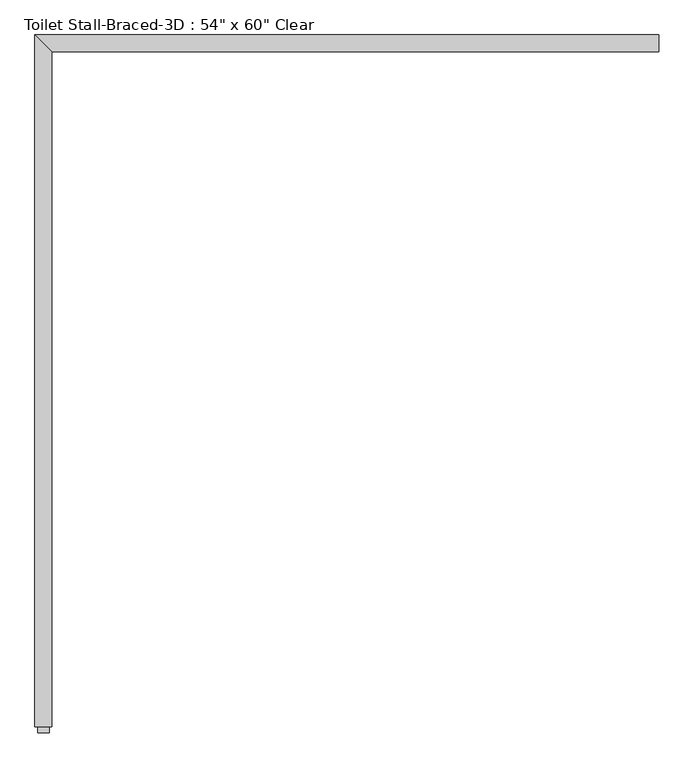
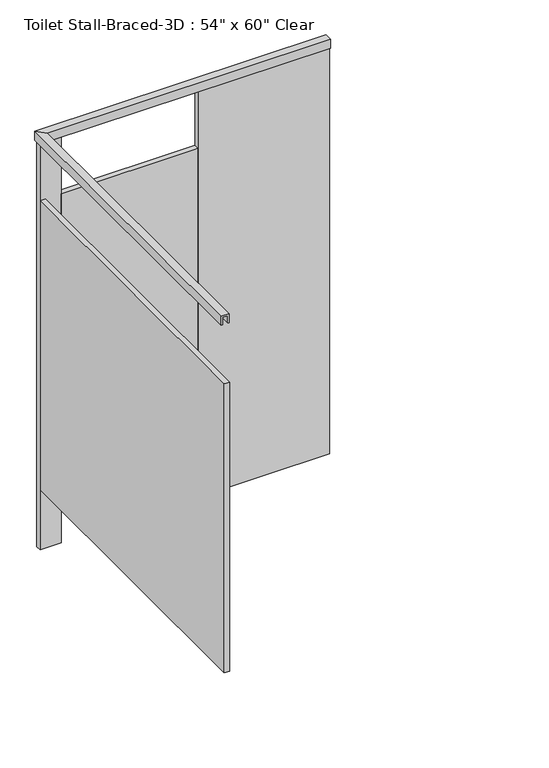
"""IFC4 building model written with IfcOpenShell, lengths in millimetres: proxy geometry."""

import ifcopenshell
import ifcopenshell.guid

model = None  # the IFC model being written
_history = None  # IfcOwnerHistory: only IFC2X3 demands one
_inside = {}  # id of a spatial element -> (the spatial element, [elements in it])
_under = {}  # id of a project, library or spatial element -> (it, [spatial elements below it])
_declared = {}  # id of a project -> (the project, [libraries it declares])
_typed = {}  # id of a type object -> (the type object, [elements of that type])
_made_of = {}  # id of a material, layer set ... -> (it, [elements and type objects made of it])


def new_model(schema):
    """Start an empty IFC model of exactly this schema.

    Asked for "IFC4X3", IfcOpenShell would pick the latest addendum, in which some entities
    have other attributes; the version numbers below select the first issue.
    IFC2X3 requires an IfcOwnerHistory on every rooted entity: one is made here for all.
    """
    global model, _history
    if schema == "IFC4X3":
        model = ifcopenshell.file(schema_version=(4, 3, 0, 0))
    else:
        model = ifcopenshell.file(schema=schema)
    _inside.clear()
    _under.clear()
    _declared.clear()
    _typed.clear()
    _made_of.clear()
    _history = None
    if model.schema == "IFC2X3":
        org = make("IfcOrganization", Name="unknown")
        user = make(
            "IfcPersonAndOrganization",
            ThePerson=make("IfcPerson", FamilyName="unknown"),
            TheOrganization=org,
        )
        app = make(
            "IfcApplication",
            ApplicationDeveloper=org,
            Version="unknown",
            ApplicationFullName="unknown",
            ApplicationIdentifier="unknown",
        )
        _history = make(
            "IfcOwnerHistory",
            OwningUser=user,
            OwningApplication=app,
            ChangeAction="ADDED",
            CreationDate=0,
        )
    return model


def make(cls, **values):
    """One entity of the class cls with the attributes given. An attribute that is None is left unset."""
    return model.create_entity(
        cls, **{name: value for name, value in values.items() if value is not None}
    )


def rooted(cls, **values):
    """An entity with a GlobalId (a new one), such as an element, a storey or a relation."""
    return make(cls, GlobalId=ifcopenshell.guid.new(), OwnerHistory=_history, **values)


def si_unit(unit_type, name, prefix=None):
    """IfcSIUnit, for example si_unit("LENGTHUNIT", "METRE", prefix="MILLI")."""
    return make("IfcSIUnit", UnitType=unit_type, Prefix=prefix, Name=name)


def assignment(units):
    """IfcUnitAssignment: the units of a project."""
    return None if units is None else make("IfcUnitAssignment", Units=units)


def point(xyz):
    """IfcCartesianPoint."""
    return None if xyz is None else make("IfcCartesianPoint", Coordinates=xyz)


def direction(xyz):
    """IfcDirection."""
    return None if xyz is None else make("IfcDirection", DirectionRatios=xyz)


def frame(location, z_axis=None, x_axis=None):
    """IfcAxis2Placement3D, a coordinate frame: its origin and axes. An axis left out is left unset."""
    return make(
        "IfcAxis2Placement3D",
        Location=point(location),
        Axis=direction(z_axis),
        RefDirection=direction(x_axis),
    )


def origin():
    """The frame at (0, 0, 0) with its axes left unset."""
    return frame((0.0, 0.0, 0.0))


def origin_with_axes():
    """The frame at (0, 0, 0) with the z axis (0, 0, 1) and the x axis (1, 0, 0) written out."""
    return frame((0.0, 0.0, 0.0), z_axis=(0.0, 0.0, 1.0), x_axis=(1.0, 0.0, 0.0))


def place(relative_to, where):
    """IfcLocalPlacement: puts the frame where relative to a parent placement (None: the world)."""
    return make(
        "IfcLocalPlacement", PlacementRelTo=relative_to, RelativePlacement=where
    )


def context(
    kind, dimensions, precision=None, world=None, true_north=None, identifier=None
):
    """IfcGeometricRepresentationContext, for example the 3D "Model" context."""
    return make(
        "IfcGeometricRepresentationContext",
        ContextIdentifier=identifier,
        ContextType=kind,
        CoordinateSpaceDimension=dimensions,
        Precision=precision,
        WorldCoordinateSystem=world,
        TrueNorth=true_north,
    )


def project(units=None, contexts=None):
    """IfcProject with its units and contexts."""
    return rooted(
        "IfcProject",
        Name="project",
        RepresentationContexts=contexts,
        UnitsInContext=assignment(units),
    )


def spatial(cls, under=None, at=None, **own):
    """A site, building, storey or space (cls), placed at a placement, below another one or the project."""
    s = rooted(cls, ObjectPlacement=at, **own)
    if under is not None:
        _under.setdefault(under.id(), (under, []))[1].append(s)
    return s


def polyline(points):
    """IfcPolyline through the points."""
    return make("IfcPolyline", Points=[point(p) for p in points])


def outline(outer, holes=None, kind="AREA"):
    """IfcArbitraryClosedProfileDef: a profile drawn as a closed curve; with holes, ...WithVoids."""
    if holes is None:
        return make("IfcArbitraryClosedProfileDef", ProfileType=kind, OuterCurve=outer)
    return make(
        "IfcArbitraryProfileDefWithVoids",
        ProfileType=kind,
        OuterCurve=outer,
        InnerCurves=holes,
    )


def extrude(swept, where, along, depth):
    """IfcExtrudedAreaSolid: the profile swept, set in the frame where, extruded along a direction by depth."""
    return make(
        "IfcExtrudedAreaSolid",
        SweptArea=swept,
        Position=where,
        ExtrudedDirection=direction(along),
        Depth=depth,
    )


def faces_of(points, faces, orient=None, outer=None):
    """IfcFace entities. A face is a list of loops; a loop is a list of indices into points, from 0.

    orient and outer hold one flag for each loop. By default every Orientation is true, the
    first loop of a face is its IfcFaceOuterBound and the others are IfcFaceBound.
    """
    made = []
    for i, loops in enumerate(faces):
        bounds = []
        for j, loop in enumerate(loops):
            is_outer = j == 0 if outer is None else outer[i][j]
            bounds.append(
                make(
                    "IfcFaceOuterBound" if is_outer else "IfcFaceBound",
                    Bound=make("IfcPolyLoop", Polygon=[points[k] for k in loop]),
                    Orientation=True if orient is None else orient[i][j],
                )
            )
        made.append(make("IfcFace", Bounds=bounds))
    return made


def faceted_brep(points, faces, orient=None, outer=None, voids=None):
    """IfcFacetedBrep: a solid bounded by flat faces; with voids (closed shells), ...WithVoids."""
    shared = [point(p) for p in points]
    hull = make("IfcClosedShell", CfsFaces=faces_of(shared, faces, orient, outer))
    if voids is None:
        return make("IfcFacetedBrep", Outer=hull)
    return make(
        "IfcFacetedBrepWithVoids",
        Outer=hull,
        Voids=[
            make(cls, CfsFaces=faces_of(shared, fs, o, b)) for cls, fs, o, b in voids
        ],
    )


def shape(context_of_items, identifier, shape_type, items):
    """IfcShapeRepresentation: the items that make up one representation, for example the "Body"."""
    return make(
        "IfcShapeRepresentation",
        ContextOfItems=context_of_items,
        RepresentationIdentifier=identifier,
        RepresentationType=shape_type,
        Items=items,
    )


def source(mapping_origin, context_of_items, identifier, shape_type, items):
    """IfcRepresentationMap: a shape defined once, which mapped items show again and again."""
    return make(
        "IfcRepresentationMap",
        MappingOrigin=mapping_origin,
        MappedRepresentation=shape(context_of_items, identifier, shape_type, items),
    )


def transform(
    local_origin,
    x_axis=None,
    y_axis=None,
    z_axis=None,
    scale=None,
    scale2=None,
    scale3=None,
    uniform=True,
):
    """IfcCartesianTransformationOperator3D, or its non-uniform kind. x_axis, y_axis, z_axis: its Axis1, 2, 3."""
    if uniform:
        return make(
            "IfcCartesianTransformationOperator3D",
            Axis1=direction(x_axis),
            Axis2=direction(y_axis),
            LocalOrigin=point(local_origin),
            Scale=scale,
            Axis3=direction(z_axis),
        )
    return make(
        "IfcCartesianTransformationOperator3DnonUniform",
        Axis1=direction(x_axis),
        Axis2=direction(y_axis),
        LocalOrigin=point(local_origin),
        Scale=scale,
        Axis3=direction(z_axis),
        Scale2=scale2,
        Scale3=scale3,
    )


def mapped(mapping_source, mapping_target):
    """IfcMappedItem: shows the shape of a source again, moved by a transform."""
    return make(
        "IfcMappedItem", MappingSource=mapping_source, MappingTarget=mapping_target
    )


def made_of(thing, what):
    """Note that an element or type object is made of a material, layer set ...; save() writes the relation."""
    if what is not None:
        _made_of.setdefault(what.id(), (what, []))[1].append(thing)
    return thing


def element(
    cls,
    number,
    at=None,
    inside=None,
    cuts=None,
    type_object=None,
    material=None,
    context=None,
    identifier="Body",
    shape_type=None,
    held_by="IfcProductDefinitionShape",
    body=None,
    shapes=None,
    **own,
):
    """One element of the class cls, such as IfcWall. Its Tag is "e" and its number.

    at: its placement. inside: the storey or other place that contains it. cuts: it is an
    opening in that element (IfcRelVoidsElement). A single representation is given by context,
    identifier, shape_type and body (its items); several are given by shapes. held_by: the class
    of the entity that holds the representations. save() writes the other relations.
    """
    e = rooted(cls, Tag="e%d" % number, ObjectPlacement=at, **own)
    if body is not None:
        shapes = [shape(context, identifier, shape_type, body)]
    if shapes is not None:
        e.Representation = make(held_by, Representations=shapes)
    if inside is not None:
        _inside.setdefault(inside.id(), (inside, []))[1].append(e)
    if cuts is not None:
        rooted(
            "IfcRelVoidsElement", RelatingBuildingElement=cuts, RelatedOpeningElement=e
        )
    if type_object is not None:
        _typed.setdefault(type_object.id(), (type_object, []))[1].append(e)
    return made_of(e, material)


def aggregate(whole, parts):
    """IfcRelAggregates: a whole, such as a stair, and the parts it consists of."""
    return rooted("IfcRelAggregates", RelatingObject=whole, RelatedObjects=parts)


def save(model, path):
    """Write the relations noted so far, then the file.

    IfcRelAggregates (storeys below a building ...), IfcRelContainedInSpatialStructure (elements
    in a storey), IfcRelDefinesByType, IfcRelAssociatesMaterial and IfcRelDeclares: one each for
    every whole, place, type object, material and project.
    """
    for whole, parts in _under.values():
        aggregate(whole, parts)
    for where, things in _inside.values():
        rooted(
            "IfcRelContainedInSpatialStructure",
            RelatedElements=things,
            RelatingStructure=where,
        )
    for kind, things in _typed.values():
        rooted("IfcRelDefinesByType", RelatedObjects=things, RelatingType=kind)
    for what, things in _made_of.values():
        rooted("IfcRelAssociatesMaterial", RelatedObjects=things, RelatingMaterial=what)
    for by, libraries in _declared.values():
        rooted("IfcRelDeclares", RelatingContext=by, RelatedDefinitions=libraries)
    model.write(path)


def proxy_987fb3b0(model_context):
    return source(origin(), model_context, "Body", "SolidModel", [
        faceted_brep([(-306.2968462, 77.7875, 2108.2), (-280.8968462, 77.7875, 2108.2), (-280.8968462, 77.7875, 2070.1), (-274.5468462, 77.7875, 2070.1), (-274.5468462, 77.7875, 2114.55), (-312.6468462, 77.7875, 2114.55), (-312.6468462, 77.7875, 2070.1), (-306.2968462, 77.7875, 2070.1), (-306.2968462, 1627.1875, 2108.2), (-280.8968462, 1601.7875, 2108.2), (-280.8968462, 1601.7875, 2070.1), (-274.5468462, 1595.4375, 2070.1), (-274.5468462, 1595.4375, 2114.55), (-312.6468462, 1633.5375, 2114.55), (-312.6468462, 1633.5375, 2070.1), (-306.2968462, 1627.1875, 2070.1), (1090.7031538, 1627.1875, 2108.2), (1090.7031538, 1627.1875, 2070.1), (1090.7031538, 1633.5375, 2070.1), (1090.7031538, 1633.5375, 2114.55), (1090.7031538, 1595.4375, 2114.55), (1090.7031538, 1595.4375, 2070.1), (1090.7031538, 1601.7875, 2070.1), (1090.7031538, 1601.7875, 2108.2)], [[[0, 1, 2, 3, 4, 5, 6, 7]], [[1, 0, 8, 9]], [[2, 1, 9, 10]], [[3, 2, 10, 11]], [[4, 3, 11, 12]], [[5, 4, 12, 13]], [[6, 5, 13, 14]], [[7, 6, 14, 15]], [[0, 7, 15, 8]], [[16, 17, 18, 19, 20, 21, 22, 23]], [[9, 8, 16, 23]], [[10, 9, 23, 22]], [[11, 10, 22, 21]], [[12, 11, 21, 20]], [[13, 12, 20, 19]], [[14, 13, 19, 18]], [[15, 14, 18, 17]], [[8, 15, 17, 16]]]),
        extrude(outline(polyline([(455.7031538, 1627.1875), (455.7031538, 1601.7875), (-204.6968462, 1601.7875), (-204.6968462, 1627.1875), (455.7031538, 1627.1875)])), frame((0.0, 0.0, 304.8), z_axis=(0.0, 0.0, 1.0), x_axis=(1.0, 0.0, 0.0)), (0.0, 0.0, 1.0), 1473.2),
        extrude(outline(polyline([(-204.6968462, 1627.1875), (-204.6968462, 1601.7875), (-306.2968462, 1601.7875), (-306.2968462, 1627.1875), (-204.6968462, 1627.1875)])), origin_with_axes(), (0.0, 0.0, 1.0), 2108.2),
        extrude(outline(polyline([(1090.7031538, 1627.1875), (1090.7031538, 1601.7875), (455.7031538, 1601.7875), (455.7031538, 1627.1875), (1090.7031538, 1627.1875)])), origin_with_axes(), (0.0, 0.0, 1.0), 2108.2),
        extrude(outline(polyline([(-306.2968462, 1601.7875), (-280.8968462, 1601.7875), (-280.8968462, 63.5), (-306.2968462, 63.5), (-306.2968462, 1601.7875)])), frame((0.0, 0.0, 304.8), z_axis=(0.0, 0.0, 1.0), x_axis=(1.0, 0.0, 0.0)), (0.0, 0.0, 1.0), 1473.2),
    ])


if __name__ == "__main__":
    model = new_model("IFC4")
    model_context = context("Model", 3, world=origin())
    ifc_project = project(units=[si_unit("LENGTHUNIT", "METRE", prefix="MILLI")], contexts=[model_context])
    site = spatial("IfcSite", under=ifc_project)
    building = spatial("IfcBuilding", under=site)
    placement = place(None, origin())
    proxy_shape = proxy_987fb3b0(model_context)
    element("IfcBuildingElementProxy", 1, Name="Toilet Stall-Braced-3D : 54\" x 60\" Clear", ObjectType="Toilet Stall-Braced-3D : 54\" x 60\" Clear", at=placement, inside=building, context=model_context, shape_type="MappedRepresentation", body=[
        mapped(proxy_shape, transform((0.0, 0.0, 0.0), x_axis=(1.0, 0.0, 0.0), y_axis=(0.0, 1.0, 0.0), z_axis=(0.0, 0.0, 1.0))),
    ])
    save(model, "model.ifc")
